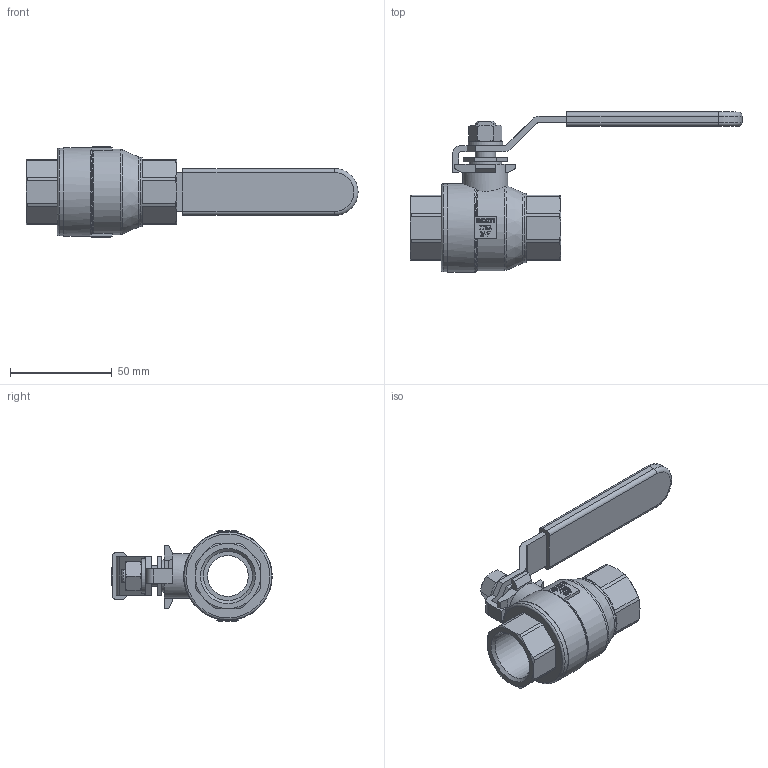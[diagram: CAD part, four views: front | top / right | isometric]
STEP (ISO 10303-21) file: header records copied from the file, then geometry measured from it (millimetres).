
FILE_DESCRIPTION(/* description */ ('Eriks item no: 12427452'),/* implementation_level */ '2;1');
FILE_NAME(/* name */ '7752-DN20-FB-1000PSI-BSPP.stp',/* time_stamp */ '2024-02-16T16:33:07+01:00',/* author */ ('roger.thijssen'),/* organization */ (''),/* preprocessor_version */ 'ST-DEVELOPER v19.2',/* originating_system */ 'Autodesk Inventor 2024',/* authorisation */ '');
FILE_SCHEMA (('AUTOMOTIVE_DESIGN { 1 0 10303 214 3 1 1 }'));
Length unit declared in the file: millimetre
Products named in the file (1): Ball valve, 7752-DN20-FB-1000PSI-BSPP
Bounding box: 163 x 78.75 x 44.5 mm (x, y, z)
Volume: 79599.3 mm3; surface area: 25544.3 mm2
Topology: 1 solids, 1 shells, 1187 faces, 3260 edges, 2158 vertices
Faces by surface type: plane 937, bspline 125, cylinder 78, cone 36, torus 11
Full cylindrical faces by diameter (mm): 8 x1, 10 x1, 16 x1, 17 x1, 20 x1, 22 x1, 24.117 x2, 34 x1, 43.2 x1, 43.5 x1
Entity records: 39472 total; most frequent: CARTESIAN_POINT 8869, ORIENTED_EDGE 6520, DIRECTION 5292, EDGE_CURVE 3260, LINE 2688, VECTOR 2688, VERTEX_POINT 2158, AXIS2_PLACEMENT_3D 1302
